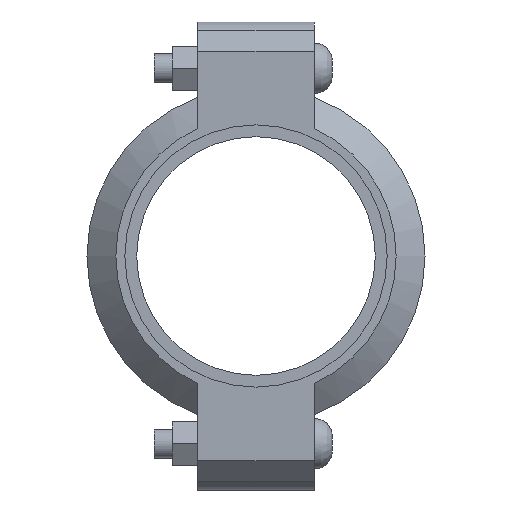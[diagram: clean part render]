
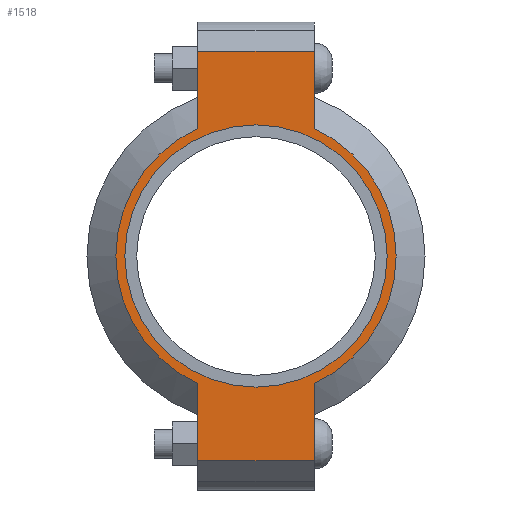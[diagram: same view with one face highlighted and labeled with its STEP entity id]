
A CAD part, left-side view. The second image highlights one B-rep face of the part: STEP entity #1518.
In plain terms, the highlighted planar face has unit normal (-1, 0, 0) as drawn and (0, 0, 1) by its records, which use the part's own axes.
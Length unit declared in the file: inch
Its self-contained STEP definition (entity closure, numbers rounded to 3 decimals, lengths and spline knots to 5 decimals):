
#142=LINE('',#2658,#235);
#150=LINE('',#2694,#243);
#157=LINE('',#2715,#250);
#166=LINE('',#2747,#259);
#167=LINE('',#2751,#260);
#168=LINE('',#2753,#261);
#235=VECTOR('',#2174,0.3937);
#243=VECTOR('',#2190,0.3937);
#250=VECTOR('',#2209,0.3937);
#259=VECTOR('',#2234,0.3937);
#260=VECTOR('',#2239,0.3937);
#261=VECTOR('',#2240,0.3937);
#317=FACE_BOUND('',#495,.T.);
#389=FACE_OUTER_BOUND('',#494,.T.);
#494=EDGE_LOOP('',(#1259,#1260,#1261,#1262,#1263,#1264,#1265,#1266));
#495=EDGE_LOOP('',(#1267));
#567=CIRCLE('',#1746,2.25);
#593=CIRCLE('',#1805,2.405);
#594=CIRCLE('',#1806,2.405);
#659=VERTEX_POINT('',#2474);
#702=VERTEX_POINT('',#2655);
#703=VERTEX_POINT('',#2657);
#714=VERTEX_POINT('',#2689);
#715=VERTEX_POINT('',#2693);
#722=VERTEX_POINT('',#2712);
#723=VERTEX_POINT('',#2714);
#733=VERTEX_POINT('',#2750);
#734=VERTEX_POINT('',#2752);
#815=EDGE_CURVE('',#659,#659,#567,.T.);
#876=EDGE_CURVE('',#703,#702,#142,.T.);
#890=EDGE_CURVE('',#715,#714,#150,.T.);
#900=EDGE_CURVE('',#723,#722,#157,.T.);
#915=EDGE_CURVE('',#715,#702,#166,.T.);
#916=EDGE_CURVE('',#714,#723,#593,.T.);
#917=EDGE_CURVE('',#733,#722,#167,.T.);
#918=EDGE_CURVE('',#733,#734,#168,.T.);
#919=EDGE_CURVE('',#734,#703,#594,.T.);
#1259=ORIENTED_EDGE('',*,*,#915,.F.);
#1260=ORIENTED_EDGE('',*,*,#890,.T.);
#1261=ORIENTED_EDGE('',*,*,#916,.T.);
#1262=ORIENTED_EDGE('',*,*,#900,.T.);
#1263=ORIENTED_EDGE('',*,*,#917,.F.);
#1264=ORIENTED_EDGE('',*,*,#918,.T.);
#1265=ORIENTED_EDGE('',*,*,#919,.T.);
#1266=ORIENTED_EDGE('',*,*,#876,.T.);
#1267=ORIENTED_EDGE('',*,*,#815,.T.);
#1360=PLANE('',#1804);
#1518=ADVANCED_FACE('',(#389,#317),#1360,.T.);
#1746=AXIS2_PLACEMENT_3D('',#2476,#2050,#2051);
#1804=AXIS2_PLACEMENT_3D('',#2748,#2235,#2236);
#1805=AXIS2_PLACEMENT_3D('',#2749,#2237,#2238);
#1806=AXIS2_PLACEMENT_3D('',#2754,#2241,#2242);
#2050=DIRECTION('center_axis',(0.,0.,-1.));
#2051=DIRECTION('ref_axis',(1.,0.,0.));
#2174=DIRECTION('',(1.,0.,0.));
#2190=DIRECTION('',(-1.,0.,0.));
#2209=DIRECTION('',(-1.,0.,0.));
#2234=DIRECTION('',(0.,-1.,0.));
#2235=DIRECTION('center_axis',(0.,0.,1.));
#2236=DIRECTION('ref_axis',(-1.,0.,0.));
#2237=DIRECTION('center_axis',(0.,0.,1.));
#2238=DIRECTION('ref_axis',(1.,0.,0.));
#2239=DIRECTION('',(0.,1.,0.));
#2240=DIRECTION('',(1.,0.,0.));
#2241=DIRECTION('center_axis',(0.,0.,1.));
#2242=DIRECTION('ref_axis',(1.,0.,0.));
#2474=CARTESIAN_POINT('',(-2.25,0.,1.065));
#2476=CARTESIAN_POINT('Origin',(0.,0.,1.065));
#2655=CARTESIAN_POINT('',(3.515,-1.,1.065));
#2657=CARTESIAN_POINT('',(2.18724,-1.,1.065));
#2658=CARTESIAN_POINT('',(4.015,-1.,1.065));
#2689=CARTESIAN_POINT('',(2.18724,1.,1.065));
#2693=CARTESIAN_POINT('',(3.515,1.,1.065));
#2694=CARTESIAN_POINT('',(-4.015,1.,1.065));
#2712=CARTESIAN_POINT('',(-3.515,1.,1.065));
#2714=CARTESIAN_POINT('',(-2.18724,1.,1.065));
#2715=CARTESIAN_POINT('',(-4.015,1.,1.065));
#2747=CARTESIAN_POINT('',(3.515,-0.5,1.065));
#2748=CARTESIAN_POINT('Origin',(0.,0.,
1.065));
#2749=CARTESIAN_POINT('Origin',(0.,0.,1.065));
#2750=CARTESIAN_POINT('',(-3.515,-1.,1.065));
#2751=CARTESIAN_POINT('',(-3.515,0.5,1.065));
#2752=CARTESIAN_POINT('',(-2.18724,-1.,1.065));
#2753=CARTESIAN_POINT('',(4.015,-1.,1.065));
#2754=CARTESIAN_POINT('Origin',(0.,0.,1.065));
